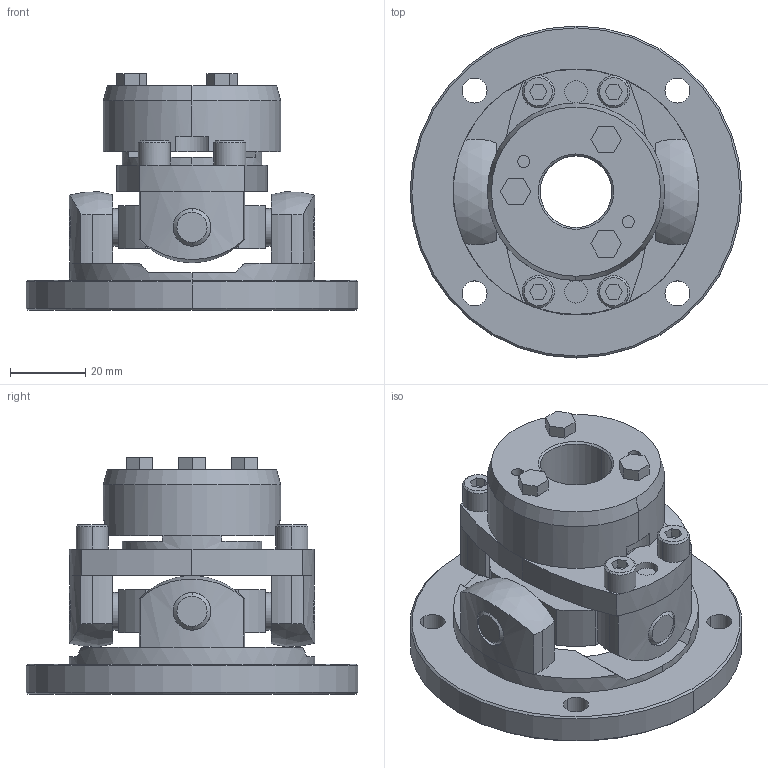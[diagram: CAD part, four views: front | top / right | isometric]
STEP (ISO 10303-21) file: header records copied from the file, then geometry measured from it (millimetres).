
FILE_DESCRIPTION((''),'2;1');
FILE_NAME('UCNF-65T7-19.stp','2011-09-17T16:16:26',(''),(''),'AutoCAD STEP 2000i','AutoCAD 2000i',', , ');
FILE_SCHEMA(('CONFIG_CONTROL_DESIGN'));
Length unit declared in the file: millimetre
Products named in the file (8): UCNF-65T7-19; 忣兜1; UCN65T7-T019; UCN65T7-T017; UCNF-6502; UCN65T7-T015-1; UCN65T7-T015; UCN65-SEN
Assembly tree (7 placements, depth 2):
  UCNF-65T7-19
    忣兜1
    UCN65T7-T019
    UCN65T7-T017
    UCNF-6502
    UCN65T7-T015-1
    UCN65T7-T015
    UCN65-SEN
Bounding box: 88 x 88 x 62.7 mm (x, y, z)
Volume: 116032.1 mm3; surface area: 37915.2 mm2
Topology: 1 solids, 1 shells, 283 faces, 704 edges, 456 vertices
Faces by surface type: plane 131, cylinder 110, cone 38, sphere 4
Entity records: 9077 total; most frequent: CARTESIAN_POINT 1839, DIRECTION 1580, ORIENTED_EDGE 1408, EDGE_CURVE 704, AXIS2_PLACEMENT_3D 601, VERTEX_POINT 456, VECTOR 378, LINE 378
